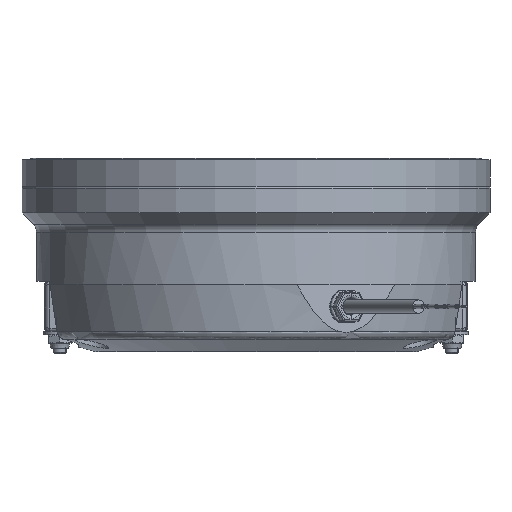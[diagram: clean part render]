
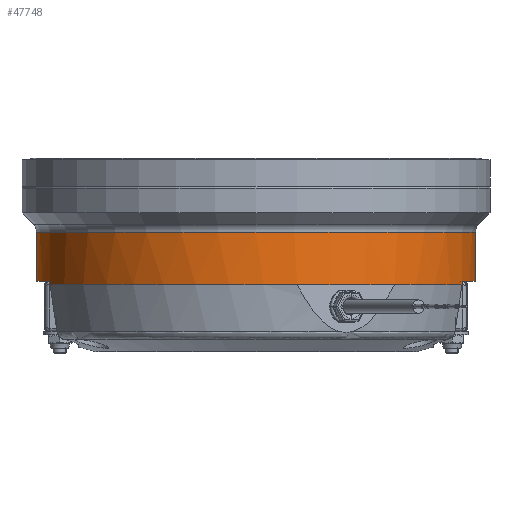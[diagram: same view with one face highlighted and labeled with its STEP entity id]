
A CAD part, front view. The second image highlights one B-rep face of the part: STEP entity #47748.
In plain terms, the highlighted cylindrical face has radius 98.5 mm (diameter 197 mm), a partial arc.
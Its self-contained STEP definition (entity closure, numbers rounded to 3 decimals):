
#122 = CARTESIAN_POINT ( 'NONE',  ( 92.446, -34., -42.7 ) ) ;
#3378 = FACE_OUTER_BOUND ( 'NONE', #66203, .T. ) ;
#3389 = VERTEX_POINT ( 'NONE', #43844 ) ;
#3727 = CIRCLE ( 'NONE', #32499, 98.5 ) ;
#6836 = CARTESIAN_POINT ( 'NONE',  ( -98.5, 0., -20.571 ) ) ;
#8859 = DIRECTION ( 'NONE',  ( -1., 0., 0. ) ) ;
#9129 = AXIS2_PLACEMENT_3D ( 'NONE', #69524, #22472, #16583 ) ;
#10343 = DIRECTION ( 'NONE',  ( 0., 0., 1. ) ) ;
#10508 = EDGE_CURVE ( 'NONE', #33171, #36995, #3727, .T. ) ;
#10827 = ORIENTED_EDGE ( 'NONE', *, *, #12153, .T. ) ;
#11005 = ORIENTED_EDGE ( 'NONE', *, *, #33242, .F. ) ;
#11008 = CARTESIAN_POINT ( 'NONE',  ( -98.5, 0., -42.7 ) ) ;
#11993 = CARTESIAN_POINT ( 'NONE',  ( 98.5, 0., 4.927 ) ) ;
#12153 = EDGE_CURVE ( 'NONE', #3389, #36995, #39468, .T. ) ;
#13523 = DIRECTION ( 'NONE',  ( 1., 0., 0. ) ) ;
#13940 = AXIS2_PLACEMENT_3D ( 'NONE', #20128, #55813, #13523 ) ;
#15136 = CARTESIAN_POINT ( 'NONE',  ( 18.496, -96.748, -44.2 ) ) ;
#15973 = DIRECTION ( 'NONE',  ( 0., 0., 1. ) ) ;
#16583 = DIRECTION ( 'NONE',  ( 1., 0., 0. ) ) ;
#17632 = LINE ( 'NONE', #21966, #37914 ) ;
#17809 = AXIS2_PLACEMENT_3D ( 'NONE', #37195, #26204, #20729 ) ;
#18451 = VERTEX_POINT ( 'NONE', #29467 ) ;
#19392 = VERTEX_POINT ( 'NONE', #36927 ) ;
#20128 = CARTESIAN_POINT ( 'NONE',  ( 0., 0., -44.2 ) ) ;
#20729 = DIRECTION ( 'NONE',  ( 1., 0., 0. ) ) ;
#20918 = EDGE_CURVE ( 'NONE', #19392, #33555, #17632, .T. ) ;
#21791 = DIRECTION ( 'NONE',  ( 0., 0., -1. ) ) ;
#21966 = CARTESIAN_POINT ( 'NONE',  ( -92.446, -34., 4.927 ) ) ;
#22108 = CIRCLE ( 'NONE', #32087, 98.5 ) ;
#22166 = VERTEX_POINT ( 'NONE', #35200 ) ;
#22472 = DIRECTION ( 'NONE',  ( 0., 0., -1. ) ) ;
#24587 = VERTEX_POINT ( 'NONE', #15136 ) ;
#24797 = CARTESIAN_POINT ( 'NONE',  ( 0., 0., -44.2 ) ) ;
#24879 = DIRECTION ( 'NONE',  ( 0., 0., 1. ) ) ;
#25886 = EDGE_CURVE ( 'NONE', #33555, #24587, #35614, .T. ) ;
#26204 = DIRECTION ( 'NONE',  ( 0., 0., 1. ) ) ;
#26700 = ORIENTED_EDGE ( 'NONE', *, *, #67115, .T. ) ;
#26969 = VECTOR ( 'NONE', #10343, 1000. ) ;
#27256 = ORIENTED_EDGE ( 'NONE', *, *, #25886, .T. ) ;
#27504 = ORIENTED_EDGE ( 'NONE', *, *, #41973, .T. ) ;
#27697 = CIRCLE ( 'NONE', #13940, 98.5 ) ;
#28962 = AXIS2_PLACEMENT_3D ( 'NONE', #57484, #15973, #39825 ) ;
#29467 = CARTESIAN_POINT ( 'NONE',  ( 98.5, 0., -20.571 ) ) ;
#30703 = ORIENTED_EDGE ( 'NONE', *, *, #58040, .T. ) ;
#31536 = CIRCLE ( 'NONE', #17809, 98.5 ) ;
#32087 = AXIS2_PLACEMENT_3D ( 'NONE', #56276, #21791, #75530 ) ;
#32499 = AXIS2_PLACEMENT_3D ( 'NONE', #56686, #67730, #8859 ) ;
#32681 = ORIENTED_EDGE ( 'NONE', *, *, #35964, .F. ) ;
#33171 = VERTEX_POINT ( 'NONE', #50786 ) ;
#33242 = EDGE_CURVE ( 'NONE', #19392, #73844, #22108, .T. ) ;
#33555 = VERTEX_POINT ( 'NONE', #54256 ) ;
#35200 = CARTESIAN_POINT ( 'NONE',  ( 62.224, -76.357, -44.2 ) ) ;
#35614 = CIRCLE ( 'NONE', #56879, 98.5 ) ;
#35964 = EDGE_CURVE ( 'NONE', #73844, #47474, #64059, .T. ) ;
#36927 = CARTESIAN_POINT ( 'NONE',  ( -92.446, -34., -42.7 ) ) ;
#36995 = VERTEX_POINT ( 'NONE', #122 ) ;
#37195 = CARTESIAN_POINT ( 'NONE',  ( 0., 0., -44.2 ) ) ;
#37914 = VECTOR ( 'NONE', #69814, 1000. ) ;
#39468 = LINE ( 'NONE', #56371, #67968 ) ;
#39825 = DIRECTION ( 'NONE',  ( 1., 0., 0. ) ) ;
#41588 = EDGE_CURVE ( 'NONE', #22166, #3389, #27697, .T. ) ;
#41973 = EDGE_CURVE ( 'NONE', #24587, #22166, #31536, .T. ) ;
#42925 = CIRCLE ( 'NONE', #9129, 98.5 ) ;
#43844 = CARTESIAN_POINT ( 'NONE',  ( 92.446, -34., -44.2 ) ) ;
#46441 = VECTOR ( 'NONE', #24879, 1000. ) ;
#47188 = DIRECTION ( 'NONE',  ( 1., 0., 0. ) ) ;
#47474 = VERTEX_POINT ( 'NONE', #6836 ) ;
#47748 = ADVANCED_FACE ( 'NONE', ( #3378 ), #68890, .T. ) ;
#48702 = DIRECTION ( 'NONE',  ( 0., 0., 1. ) ) ;
#50786 = CARTESIAN_POINT ( 'NONE',  ( 98.5, 0., -42.7 ) ) ;
#54256 = CARTESIAN_POINT ( 'NONE',  ( -92.446, -34., -44.2 ) ) ;
#55813 = DIRECTION ( 'NONE',  ( 0., 0., 1. ) ) ;
#56248 = ORIENTED_EDGE ( 'NONE', *, *, #10508, .F. ) ;
#56276 = CARTESIAN_POINT ( 'NONE',  ( 0., 0., -42.7 ) ) ;
#56371 = CARTESIAN_POINT ( 'NONE',  ( 92.446, -34., 4.927 ) ) ;
#56686 = CARTESIAN_POINT ( 'NONE',  ( 0., 0., -42.7 ) ) ;
#56879 = AXIS2_PLACEMENT_3D ( 'NONE', #24797, #48702, #47188 ) ;
#57484 = CARTESIAN_POINT ( 'NONE',  ( 0., 0., 4.927 ) ) ;
#58040 = EDGE_CURVE ( 'NONE', #18451, #47474, #42925, .T. ) ;
#64059 = LINE ( 'NONE', #70346, #26969 ) ;
#66203 = EDGE_LOOP ( 'NONE', ( #32681, #11005, #72584, #27256, #27504, #77411, #10827, #56248, #26700, #30703 ) ) ;
#67115 = EDGE_CURVE ( 'NONE', #33171, #18451, #77486, .T. ) ;
#67730 = DIRECTION ( 'NONE',  ( 0., 0., -1. ) ) ;
#67968 = VECTOR ( 'NONE', #69338, 1000. ) ;
#68890 = CYLINDRICAL_SURFACE ( 'NONE', #28962, 98.5 ) ;
#69338 = DIRECTION ( 'NONE',  ( 0., 0., 1. ) ) ;
#69524 = CARTESIAN_POINT ( 'NONE',  ( 0., 0., -20.571 ) ) ;
#69814 = DIRECTION ( 'NONE',  ( 0., 0., -1. ) ) ;
#70346 = CARTESIAN_POINT ( 'NONE',  ( -98.5, 0., 4.927 ) ) ;
#72584 = ORIENTED_EDGE ( 'NONE', *, *, #20918, .T. ) ;
#73844 = VERTEX_POINT ( 'NONE', #11008 ) ;
#75530 = DIRECTION ( 'NONE',  ( -1., 0., 0. ) ) ;
#77411 = ORIENTED_EDGE ( 'NONE', *, *, #41588, .T. ) ;
#77486 = LINE ( 'NONE', #11993, #46441 ) ;
